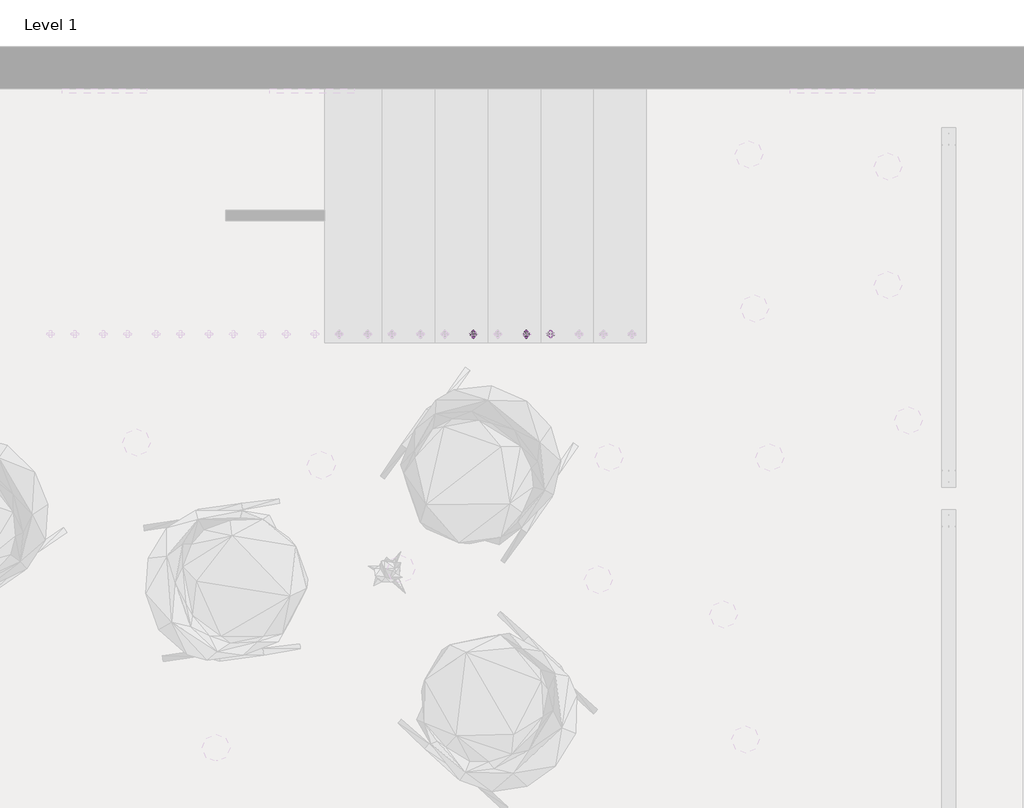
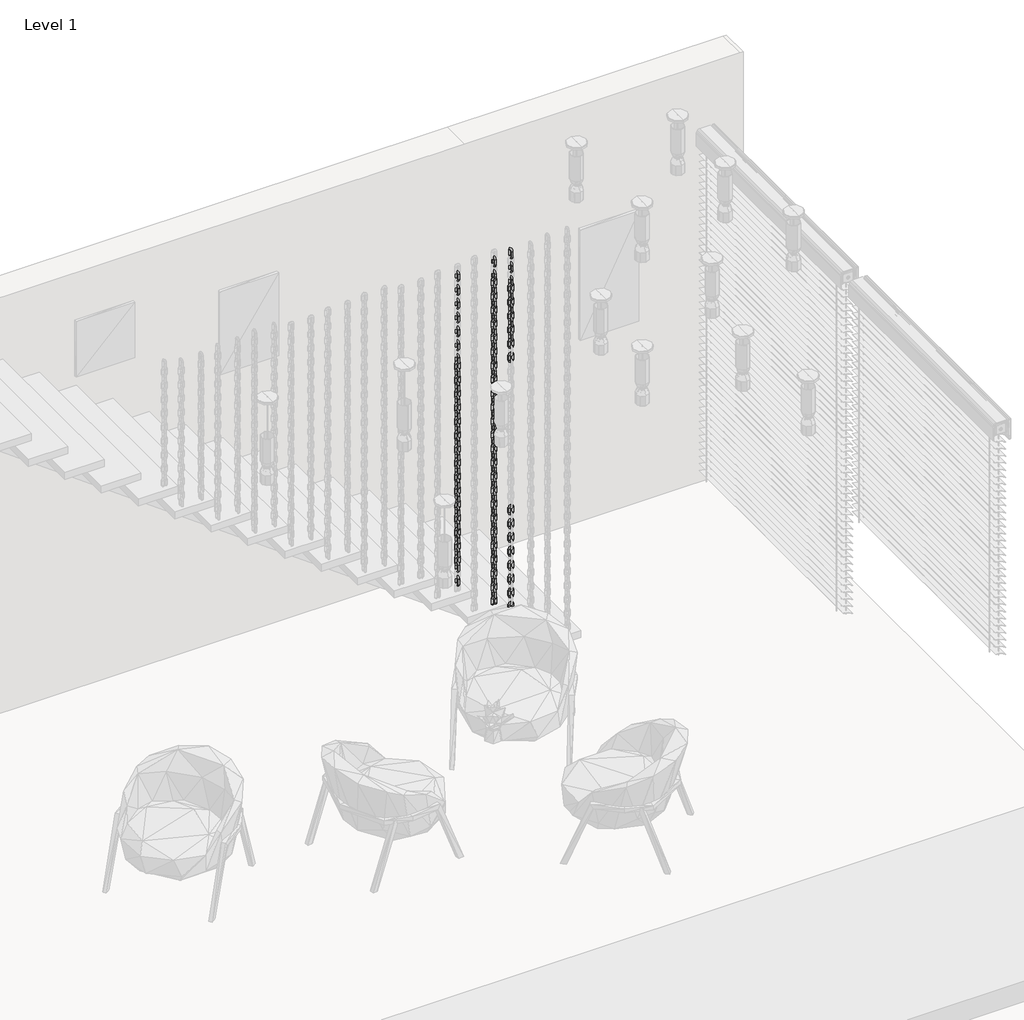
# One storey, part 10 of 12: 109 proxies.
"""IFC4 building model written with IfcOpenShell, lengths in millimetres."""

from ifc_helpers import new_model, si_unit, origin, place, context, project, spatial, transform, mapped, element, save
from components import family1_family1_50133a43, family1_family1_d3af85bb

model = new_model("IFC4")

# Units and contexts
model_context = context("Model", 3, world=origin())
ifc_project = project(units=[si_unit("LENGTHUNIT", "METRE", prefix="MILLI")], contexts=[model_context])

# Site, building, storey
site = spatial("IfcSite", under=ifc_project)
building = spatial("IfcBuilding", under=site)
storey = spatial("IfcBuildingStorey", under=building, Name="Level 1", Elevation=0.0)

# Proxies
placement = place(None, origin())
family1_family1_shape = family1_family1_50133a43(model_context)
element("IfcBuildingElementProxy", 1, Name="Family1 : Family1", ObjectType="Family1 : Family1", at=placement, inside=storey, context=model_context, shape_type="MappedRepresentation", body=[
    mapped(family1_family1_shape, transform((14615.1232124, 1139.760891, 1147.5389206), x_axis=(-0.03315618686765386, 0.0, 0.9994501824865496), y_axis=(-0.9994501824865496, 0.0, -0.03315618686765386), z_axis=(0.0, -1.0, 0.0))),
])
element("IfcBuildingElementProxy", 2, Name="Family1 : Family1", ObjectType="Family1 : Family1", at=placement, inside=storey, context=model_context, shape_type="MappedRepresentation", body=[
    mapped(family1_family1_shape, transform((14615.1232124, 1139.760891, 1247.5389206), x_axis=(-0.033156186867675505, 0.0, 0.9994501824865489), y_axis=(-0.9994501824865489, 0.0, -0.033156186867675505), z_axis=(0.0, -1.0, 0.0))),
])
element("IfcBuildingElementProxy", 3, Name="Family1 : Family1", ObjectType="Family1 : Family1", at=placement, inside=storey, context=model_context, shape_type="MappedRepresentation", body=[
    mapped(family1_family1_shape, transform((14615.1232124, 1139.760891, 1347.5389206), x_axis=(-0.033156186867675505, 0.0, 0.9994501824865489), y_axis=(-0.9994501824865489, 0.0, -0.033156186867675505), z_axis=(0.0, -1.0, 0.0))),
])
element("IfcBuildingElementProxy", 4, Name="Family1 : Family1", ObjectType="Family1 : Family1", at=placement, inside=storey, context=model_context, shape_type="MappedRepresentation", body=[
    mapped(family1_family1_shape, transform((14615.1232124, 1139.760891, 1447.5389206), x_axis=(-0.033156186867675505, 0.0, 0.9994501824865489), y_axis=(-0.9994501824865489, 0.0, -0.033156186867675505), z_axis=(0.0, -1.0, 0.0))),
])
element("IfcBuildingElementProxy", 5, Name="Family1 : Family1", ObjectType="Family1 : Family1", at=placement, inside=storey, context=model_context, shape_type="MappedRepresentation", body=[
    mapped(family1_family1_shape, transform((14615.1232124, 1139.760891, 1547.5389206), x_axis=(-0.033156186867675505, 0.0, 0.9994501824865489), y_axis=(-0.9994501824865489, 0.0, -0.033156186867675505), z_axis=(0.0, -1.0, 0.0))),
])
element("IfcBuildingElementProxy", 6, Name="Family1 : Family1", ObjectType="Family1 : Family1", at=placement, inside=storey, context=model_context, shape_type="MappedRepresentation", body=[
    mapped(family1_family1_shape, transform((14615.1232124, 1139.760891, 1647.5389206), x_axis=(-0.033156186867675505, 0.0, 0.9994501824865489), y_axis=(-0.9994501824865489, 0.0, -0.033156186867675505), z_axis=(0.0, -1.0, 0.0))),
])
element("IfcBuildingElementProxy", 7, Name="Family1 : Family1", ObjectType="Family1 : Family1", at=placement, inside=storey, context=model_context, shape_type="MappedRepresentation", body=[
    mapped(family1_family1_shape, transform((14615.1232124, 1139.760891, 1747.5389206), x_axis=(-0.033156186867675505, 0.0, 0.9994501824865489), y_axis=(-0.9994501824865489, 0.0, -0.033156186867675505), z_axis=(0.0, -1.0, 0.0))),
])
element("IfcBuildingElementProxy", 8, Name="Family1 : Family1", ObjectType="Family1 : Family1", at=placement, inside=storey, context=model_context, shape_type="MappedRepresentation", body=[
    mapped(family1_family1_shape, transform((14500.1232124, 1139.760891, 29.8918618), x_axis=(-0.033156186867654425, 0.0, 0.9994501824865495), y_axis=(-0.9994501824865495, 0.0, -0.033156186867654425), z_axis=(0.0, -1.0, 0.0))),
])
element("IfcBuildingElementProxy", 9, Name="Family1 : Family1", ObjectType="Family1 : Family1", at=placement, inside=storey, context=model_context, shape_type="MappedRepresentation", body=[
    mapped(family1_family1_shape, transform((14500.1232124, 1139.760891, 129.8918618), x_axis=(-0.03315618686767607, 0.0, 0.9994501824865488), y_axis=(-0.9994501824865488, 0.0, -0.03315618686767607), z_axis=(0.0, -1.0, 0.0))),
])
element("IfcBuildingElementProxy", 10, Name="Family1 : Family1", ObjectType="Family1 : Family1", at=placement, inside=storey, context=model_context, shape_type="MappedRepresentation", body=[
    mapped(family1_family1_shape, transform((14500.1232124, 1139.760891, 229.8918618), x_axis=(-0.03315618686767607, 0.0, 0.9994501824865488), y_axis=(-0.9994501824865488, 0.0, -0.03315618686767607), z_axis=(0.0, -1.0, 0.0))),
])
element("IfcBuildingElementProxy", 11, Name="Family1 : Family1", ObjectType="Family1 : Family1", at=placement, inside=storey, context=model_context, shape_type="MappedRepresentation", body=[
    mapped(family1_family1_shape, transform((14500.1232124, 1139.760891, 329.8918618), x_axis=(-0.03315618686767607, 0.0, 0.9994501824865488), y_axis=(-0.9994501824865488, 0.0, -0.03315618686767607), z_axis=(0.0, -1.0, 0.0))),
])
element("IfcBuildingElementProxy", 12, Name="Family1 : Family1", ObjectType="Family1 : Family1", at=placement, inside=storey, context=model_context, shape_type="MappedRepresentation", body=[
    mapped(family1_family1_shape, transform((14500.1232124, 1139.760891, 429.8918618), x_axis=(-0.03315618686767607, 0.0, 0.9994501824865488), y_axis=(-0.9994501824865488, 0.0, -0.03315618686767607), z_axis=(0.0, -1.0, 0.0))),
])
element("IfcBuildingElementProxy", 13, Name="Family1 : Family1", ObjectType="Family1 : Family1", at=placement, inside=storey, context=model_context, shape_type="MappedRepresentation", body=[
    mapped(family1_family1_shape, transform((14500.1232124, 1139.760891, 529.8918618), x_axis=(-0.033156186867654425, 0.0, 0.9994501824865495), y_axis=(-0.9994501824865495, 0.0, -0.033156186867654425), z_axis=(0.0, -1.0, 0.0))),
])
element("IfcBuildingElementProxy", 14, Name="Family1 : Family1", ObjectType="Family1 : Family1", at=placement, inside=storey, context=model_context, shape_type="MappedRepresentation", body=[
    mapped(family1_family1_shape, transform((14500.1232124, 1139.760891, 629.8918618), x_axis=(-0.03315618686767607, 0.0, 0.9994501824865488), y_axis=(-0.9994501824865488, 0.0, -0.03315618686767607), z_axis=(0.0, -1.0, 0.0))),
])
element("IfcBuildingElementProxy", 15, Name="Family1 : Family1", ObjectType="Family1 : Family1", at=placement, inside=storey, context=model_context, shape_type="MappedRepresentation", body=[
    mapped(family1_family1_shape, transform((14500.1232124, 1139.760891, 729.8918618), x_axis=(-0.03315618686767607, 0.0, 0.9994501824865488), y_axis=(-0.9994501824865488, 0.0, -0.03315618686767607), z_axis=(0.0, -1.0, 0.0))),
])
element("IfcBuildingElementProxy", 16, Name="Family1 : Family1", ObjectType="Family1 : Family1", at=placement, inside=storey, context=model_context, shape_type="MappedRepresentation", body=[
    mapped(family1_family1_shape, transform((14500.1232124, 1139.760891, 829.8918618), x_axis=(-0.03315618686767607, 0.0, 0.9994501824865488), y_axis=(-0.9994501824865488, 0.0, -0.03315618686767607), z_axis=(0.0, -1.0, 0.0))),
])
element("IfcBuildingElementProxy", 17, Name="Family1 : Family1", ObjectType="Family1 : Family1", at=placement, inside=storey, context=model_context, shape_type="MappedRepresentation", body=[
    mapped(family1_family1_shape, transform((14500.1232124, 1139.760891, 929.8918618), x_axis=(-0.03315618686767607, 0.0, 0.9994501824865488), y_axis=(-0.9994501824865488, 0.0, -0.03315618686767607), z_axis=(0.0, -1.0, 0.0))),
])
element("IfcBuildingElementProxy", 18, Name="Family1 : Family1", ObjectType="Family1 : Family1", at=placement, inside=storey, context=model_context, shape_type="MappedRepresentation", body=[
    mapped(family1_family1_shape, transform((14500.1232124, 1139.760891, -70.1081382), x_axis=(-0.03315618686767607, 0.0, 0.9994501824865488), y_axis=(-0.9994501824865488, 0.0, -0.03315618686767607), z_axis=(0.0, -1.0, 0.0))),
])
element("IfcBuildingElementProxy", 19, Name="Family1 : Family1", ObjectType="Family1 : Family1", at=placement, inside=storey, context=model_context, shape_type="MappedRepresentation", body=[
    mapped(family1_family1_shape, transform((14500.1232124, 1139.760891, -170.1081382), x_axis=(-0.03315618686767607, 0.0, 0.9994501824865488), y_axis=(-0.9994501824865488, 0.0, -0.03315618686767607), z_axis=(0.0, -1.0, 0.0))),
])
element("IfcBuildingElementProxy", 20, Name="Family1 : Family1", ObjectType="Family1 : Family1", at=placement, inside=storey, context=model_context, shape_type="MappedRepresentation", body=[
    mapped(family1_family1_shape, transform((14500.1232124, 1139.760891, -270.1081382), x_axis=(-0.03315618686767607, 0.0, 0.9994501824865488), y_axis=(-0.9994501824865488, 0.0, -0.03315618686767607), z_axis=(0.0, -1.0, 0.0))),
])
element("IfcBuildingElementProxy", 21, Name="Family1 : Family1", ObjectType="Family1 : Family1", at=placement, inside=storey, context=model_context, shape_type="MappedRepresentation", body=[
    mapped(family1_family1_shape, transform((14500.1232124, 1139.760891, -370.1081382), x_axis=(-0.03315618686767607, 0.0, 0.9994501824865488), y_axis=(-0.9994501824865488, 0.0, -0.03315618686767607), z_axis=(0.0, -1.0, 0.0))),
])
element("IfcBuildingElementProxy", 22, Name="Family1 : Family1", ObjectType="Family1 : Family1", at=placement, inside=storey, context=model_context, shape_type="MappedRepresentation", body=[
    mapped(family1_family1_shape, transform((14500.1232124, 1139.760891, -470.1081382), x_axis=(-0.033156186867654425, 0.0, 0.9994501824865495), y_axis=(-0.9994501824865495, 0.0, -0.033156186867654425), z_axis=(0.0, -1.0, 0.0))),
])
element("IfcBuildingElementProxy", 23, Name="Family1 : Family1", ObjectType="Family1 : Family1", at=placement, inside=storey, context=model_context, shape_type="MappedRepresentation", body=[
    mapped(family1_family1_shape, transform((14500.1232124, 1139.760891, -570.1081382), x_axis=(-0.03315618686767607, 0.0, 0.9994501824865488), y_axis=(-0.9994501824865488, 0.0, -0.03315618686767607), z_axis=(0.0, -1.0, 0.0))),
])
element("IfcBuildingElementProxy", 24, Name="Family1 : Family1", ObjectType="Family1 : Family1", at=placement, inside=storey, context=model_context, shape_type="MappedRepresentation", body=[
    mapped(family1_family1_shape, transform((14500.1232124, 1139.760891, -670.1081382), x_axis=(-0.03315618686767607, 0.0, 0.9994501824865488), y_axis=(-0.9994501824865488, 0.0, -0.03315618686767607), z_axis=(0.0, -1.0, 0.0))),
])
element("IfcBuildingElementProxy", 25, Name="Family1 : Family1", ObjectType="Family1 : Family1", at=placement, inside=storey, context=model_context, shape_type="MappedRepresentation", body=[
    mapped(family1_family1_shape, transform((14500.1232124, 1139.760891, 1029.8918618), x_axis=(-0.033156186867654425, 0.0, 0.9994501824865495), y_axis=(-0.9994501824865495, 0.0, -0.033156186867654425), z_axis=(0.0, -1.0, 0.0))),
])
element("IfcBuildingElementProxy", 26, Name="Family1 : Family1", ObjectType="Family1 : Family1", at=placement, inside=storey, context=model_context, shape_type="MappedRepresentation", body=[
    mapped(family1_family1_shape, transform((14500.1232124, 1139.760891, 1129.8918618), x_axis=(-0.03315618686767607, 0.0, 0.9994501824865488), y_axis=(-0.9994501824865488, 0.0, -0.03315618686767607), z_axis=(0.0, -1.0, 0.0))),
])
element("IfcBuildingElementProxy", 27, Name="Family1 : Family1", ObjectType="Family1 : Family1", at=placement, inside=storey, context=model_context, shape_type="MappedRepresentation", body=[
    mapped(family1_family1_shape, transform((14500.1232124, 1139.760891, 1229.8918618), x_axis=(-0.03315618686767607, 0.0, 0.9994501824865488), y_axis=(-0.9994501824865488, 0.0, -0.03315618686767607), z_axis=(0.0, -1.0, 0.0))),
])
element("IfcBuildingElementProxy", 28, Name="Family1 : Family1", ObjectType="Family1 : Family1", at=placement, inside=storey, context=model_context, shape_type="MappedRepresentation", body=[
    mapped(family1_family1_shape, transform((14500.1232124, 1139.760891, 1329.8918618), x_axis=(-0.03315618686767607, 0.0, 0.9994501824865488), y_axis=(-0.9994501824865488, 0.0, -0.03315618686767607), z_axis=(0.0, -1.0, 0.0))),
])
element("IfcBuildingElementProxy", 29, Name="Family1 : Family1", ObjectType="Family1 : Family1", at=placement, inside=storey, context=model_context, shape_type="MappedRepresentation", body=[
    mapped(family1_family1_shape, transform((14500.1232124, 1139.760891, 1429.8918618), x_axis=(-0.03315618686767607, 0.0, 0.9994501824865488), y_axis=(-0.9994501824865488, 0.0, -0.03315618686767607), z_axis=(0.0, -1.0, 0.0))),
])
element("IfcBuildingElementProxy", 30, Name="Family1 : Family1", ObjectType="Family1 : Family1", at=placement, inside=storey, context=model_context, shape_type="MappedRepresentation", body=[
    mapped(family1_family1_shape, transform((14500.1232124, 1139.760891, 1529.8918618), x_axis=(-0.033156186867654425, 0.0, 0.9994501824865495), y_axis=(-0.9994501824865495, 0.0, -0.033156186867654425), z_axis=(0.0, -1.0, 0.0))),
])
element("IfcBuildingElementProxy", 31, Name="Family1 : Family1", ObjectType="Family1 : Family1", at=placement, inside=storey, context=model_context, shape_type="MappedRepresentation", body=[
    mapped(family1_family1_shape, transform((14500.1232124, 1139.760891, 1629.8918618), x_axis=(-0.03315618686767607, 0.0, 0.9994501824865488), y_axis=(-0.9994501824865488, 0.0, -0.03315618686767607), z_axis=(0.0, -1.0, 0.0))),
])
element("IfcBuildingElementProxy", 32, Name="Family1 : Family1", ObjectType="Family1 : Family1", at=placement, inside=storey, context=model_context, shape_type="MappedRepresentation", body=[
    mapped(family1_family1_shape, transform((14500.1232124, 1139.760891, 1729.8918618), x_axis=(-0.03315618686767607, 0.0, 0.9994501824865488), y_axis=(-0.9994501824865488, 0.0, -0.03315618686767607), z_axis=(0.0, -1.0, 0.0))),
])
element("IfcBuildingElementProxy", 33, Name="Family1 : Family1", ObjectType="Family1 : Family1", at=placement, inside=storey, context=model_context, shape_type="MappedRepresentation", body=[
    mapped(family1_family1_shape, transform((14250.1232124, 1139.760891, 112.244803), x_axis=(-0.03315618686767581, 0.0, 0.9994501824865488), y_axis=(-0.9994501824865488, 0.0, -0.03315618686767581), z_axis=(0.0, -1.0, 0.0))),
])
element("IfcBuildingElementProxy", 34, Name="Family1 : Family1", ObjectType="Family1 : Family1", at=placement, inside=storey, context=model_context, shape_type="MappedRepresentation", body=[
    mapped(family1_family1_shape, transform((14250.1232124, 1139.760891, 212.244803), x_axis=(-0.03315618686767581, 0.0, 0.9994501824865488), y_axis=(-0.9994501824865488, 0.0, -0.03315618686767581), z_axis=(0.0, -1.0, 0.0))),
])
element("IfcBuildingElementProxy", 35, Name="Family1 : Family1", ObjectType="Family1 : Family1", at=placement, inside=storey, context=model_context, shape_type="MappedRepresentation", body=[
    mapped(family1_family1_shape, transform((14250.1232124, 1139.760891, 312.244803), x_axis=(-0.03315618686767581, 0.0, 0.9994501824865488), y_axis=(-0.9994501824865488, 0.0, -0.03315618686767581), z_axis=(0.0, -1.0, 0.0))),
])
element("IfcBuildingElementProxy", 36, Name="Family1 : Family1", ObjectType="Family1 : Family1", at=placement, inside=storey, context=model_context, shape_type="MappedRepresentation", body=[
    mapped(family1_family1_shape, transform((14250.1232124, 1139.760891, 412.244803), x_axis=(-0.03315618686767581, 0.0, 0.9994501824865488), y_axis=(-0.9994501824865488, 0.0, -0.03315618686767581), z_axis=(0.0, -1.0, 0.0))),
])
element("IfcBuildingElementProxy", 37, Name="Family1 : Family1", ObjectType="Family1 : Family1", at=placement, inside=storey, context=model_context, shape_type="MappedRepresentation", body=[
    mapped(family1_family1_shape, transform((14250.1232124, 1139.760891, 512.244803), x_axis=(-0.03315618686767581, 0.0, 0.9994501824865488), y_axis=(-0.9994501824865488, 0.0, -0.03315618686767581), z_axis=(0.0, -1.0, 0.0))),
])
element("IfcBuildingElementProxy", 38, Name="Family1 : Family1", ObjectType="Family1 : Family1", at=placement, inside=storey, context=model_context, shape_type="MappedRepresentation", body=[
    mapped(family1_family1_shape, transform((14250.1232124, 1139.760891, 612.244803), x_axis=(-0.03315618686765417, 0.0, 0.9994501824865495), y_axis=(-0.9994501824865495, 0.0, -0.03315618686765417), z_axis=(0.0, -1.0, 0.0))),
])
element("IfcBuildingElementProxy", 39, Name="Family1 : Family1", ObjectType="Family1 : Family1", at=placement, inside=storey, context=model_context, shape_type="MappedRepresentation", body=[
    mapped(family1_family1_shape, transform((14250.1232124, 1139.760891, 712.244803), x_axis=(-0.03315618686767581, 0.0, 0.9994501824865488), y_axis=(-0.9994501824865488, 0.0, -0.03315618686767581), z_axis=(0.0, -1.0, 0.0))),
])
element("IfcBuildingElementProxy", 40, Name="Family1 : Family1", ObjectType="Family1 : Family1", at=placement, inside=storey, context=model_context, shape_type="MappedRepresentation", body=[
    mapped(family1_family1_shape, transform((14250.1232124, 1139.760891, 812.244803), x_axis=(-0.03315618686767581, 0.0, 0.9994501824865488), y_axis=(-0.9994501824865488, 0.0, -0.03315618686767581), z_axis=(0.0, -1.0, 0.0))),
])
element("IfcBuildingElementProxy", 41, Name="Family1 : Family1", ObjectType="Family1 : Family1", at=placement, inside=storey, context=model_context, shape_type="MappedRepresentation", body=[
    mapped(family1_family1_shape, transform((14250.1232124, 1139.760891, 912.244803), x_axis=(-0.03315618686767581, 0.0, 0.9994501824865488), y_axis=(-0.9994501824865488, 0.0, -0.03315618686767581), z_axis=(0.0, -1.0, 0.0))),
])
element("IfcBuildingElementProxy", 42, Name="Family1 : Family1", ObjectType="Family1 : Family1", at=placement, inside=storey, context=model_context, shape_type="MappedRepresentation", body=[
    mapped(family1_family1_shape, transform((14250.1232124, 1139.760891, 1012.244803), x_axis=(-0.03315618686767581, 0.0, 0.9994501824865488), y_axis=(-0.9994501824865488, 0.0, -0.03315618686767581), z_axis=(0.0, -1.0, 0.0))),
])
element("IfcBuildingElementProxy", 43, Name="Family1 : Family1", ObjectType="Family1 : Family1", at=placement, inside=storey, context=model_context, shape_type="MappedRepresentation", body=[
    mapped(family1_family1_shape, transform((14250.1232124, 1139.760891, 12.244803), x_axis=(-0.03315618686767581, 0.0, 0.9994501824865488), y_axis=(-0.9994501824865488, 0.0, -0.03315618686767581), z_axis=(0.0, -1.0, 0.0))),
])
element("IfcBuildingElementProxy", 44, Name="Family1 : Family1", ObjectType="Family1 : Family1", at=placement, inside=storey, context=model_context, shape_type="MappedRepresentation", body=[
    mapped(family1_family1_shape, transform((14250.1232124, 1139.760891, -87.755197), x_axis=(-0.03315618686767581, 0.0, 0.9994501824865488), y_axis=(-0.9994501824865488, 0.0, -0.03315618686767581), z_axis=(0.0, -1.0, 0.0))),
])
element("IfcBuildingElementProxy", 45, Name="Family1 : Family1", ObjectType="Family1 : Family1", at=placement, inside=storey, context=model_context, shape_type="MappedRepresentation", body=[
    mapped(family1_family1_shape, transform((14250.1232124, 1139.760891, -187.755197), x_axis=(-0.03315618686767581, 0.0, 0.9994501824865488), y_axis=(-0.9994501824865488, 0.0, -0.03315618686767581), z_axis=(0.0, -1.0, 0.0))),
])
element("IfcBuildingElementProxy", 46, Name="Family1 : Family1", ObjectType="Family1 : Family1", at=placement, inside=storey, context=model_context, shape_type="MappedRepresentation", body=[
    mapped(family1_family1_shape, transform((14250.1232124, 1139.760891, -287.755197), x_axis=(-0.03315618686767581, 0.0, 0.9994501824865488), y_axis=(-0.9994501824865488, 0.0, -0.03315618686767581), z_axis=(0.0, -1.0, 0.0))),
])
element("IfcBuildingElementProxy", 47, Name="Family1 : Family1", ObjectType="Family1 : Family1", at=placement, inside=storey, context=model_context, shape_type="MappedRepresentation", body=[
    mapped(family1_family1_shape, transform((14250.1232124, 1139.760891, -387.755197), x_axis=(-0.03315618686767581, 0.0, 0.9994501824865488), y_axis=(-0.9994501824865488, 0.0, -0.03315618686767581), z_axis=(0.0, -1.0, 0.0))),
])
element("IfcBuildingElementProxy", 48, Name="Family1 : Family1", ObjectType="Family1 : Family1", at=placement, inside=storey, context=model_context, shape_type="MappedRepresentation", body=[
    mapped(family1_family1_shape, transform((14250.1232124, 1139.760891, -487.755197), x_axis=(-0.03315618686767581, 0.0, 0.9994501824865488), y_axis=(-0.9994501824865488, 0.0, -0.03315618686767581), z_axis=(0.0, -1.0, 0.0))),
])
element("IfcBuildingElementProxy", 49, Name="Family1 : Family1", ObjectType="Family1 : Family1", at=placement, inside=storey, context=model_context, shape_type="MappedRepresentation", body=[
    mapped(family1_family1_shape, transform((14250.1232124, 1139.760891, 1112.244803), x_axis=(-0.03315618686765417, 0.0, 0.9994501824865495), y_axis=(-0.9994501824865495, 0.0, -0.03315618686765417), z_axis=(0.0, -1.0, 0.0))),
])
element("IfcBuildingElementProxy", 50, Name="Family1 : Family1", ObjectType="Family1 : Family1", at=placement, inside=storey, context=model_context, shape_type="MappedRepresentation", body=[
    mapped(family1_family1_shape, transform((14250.1232124, 1139.760891, 1212.244803), x_axis=(-0.03315618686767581, 0.0, 0.9994501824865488), y_axis=(-0.9994501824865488, 0.0, -0.03315618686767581), z_axis=(0.0, -1.0, 0.0))),
])
element("IfcBuildingElementProxy", 51, Name="Family1 : Family1", ObjectType="Family1 : Family1", at=placement, inside=storey, context=model_context, shape_type="MappedRepresentation", body=[
    mapped(family1_family1_shape, transform((14250.1232124, 1139.760891, 1312.244803), x_axis=(-0.03315618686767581, 0.0, 0.9994501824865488), y_axis=(-0.9994501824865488, 0.0, -0.03315618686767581), z_axis=(0.0, -1.0, 0.0))),
])
element("IfcBuildingElementProxy", 52, Name="Family1 : Family1", ObjectType="Family1 : Family1", at=placement, inside=storey, context=model_context, shape_type="MappedRepresentation", body=[
    mapped(family1_family1_shape, transform((14250.1232124, 1139.760891, 1412.244803), x_axis=(-0.03315618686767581, 0.0, 0.9994501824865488), y_axis=(-0.9994501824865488, 0.0, -0.03315618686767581), z_axis=(0.0, -1.0, 0.0))),
])
element("IfcBuildingElementProxy", 53, Name="Family1 : Family1", ObjectType="Family1 : Family1", at=placement, inside=storey, context=model_context, shape_type="MappedRepresentation", body=[
    mapped(family1_family1_shape, transform((14250.1232124, 1139.760891, 1512.244803), x_axis=(-0.03315618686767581, 0.0, 0.9994501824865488), y_axis=(-0.9994501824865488, 0.0, -0.03315618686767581), z_axis=(0.0, -1.0, 0.0))),
])
element("IfcBuildingElementProxy", 54, Name="Family1 : Family1", ObjectType="Family1 : Family1", at=placement, inside=storey, context=model_context, shape_type="MappedRepresentation", body=[
    mapped(family1_family1_shape, transform((14250.1232124, 1139.760891, 1612.244803), x_axis=(-0.03315618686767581, 0.0, 0.9994501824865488), y_axis=(-0.9994501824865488, 0.0, -0.03315618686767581), z_axis=(0.0, -1.0, 0.0))),
])
element("IfcBuildingElementProxy", 55, Name="Family1 : Family1", ObjectType="Family1 : Family1", at=placement, inside=storey, context=model_context, shape_type="MappedRepresentation", body=[
    mapped(family1_family1_shape, transform((14250.1232124, 1139.760891, 1712.244803), x_axis=(-0.03315618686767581, 0.0, 0.9994501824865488), y_axis=(-0.9994501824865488, 0.0, -0.03315618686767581), z_axis=(0.0, -1.0, 0.0))),
])
family1_family1_2_shape = family1_family1_d3af85bb(model_context)
element("IfcBuildingElementProxy", 56, Name="Family1 : Family1", ObjectType="Family1 : Family1", at=placement, inside=storey, context=model_context, shape_type="MappedRepresentation", body=[
    mapped(family1_family1_2_shape, transform((14615.1232124, 1139.760891, -102.4610794), x_axis=(-0.033156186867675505, 0.0, 0.9994501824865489), y_axis=(-0.9994501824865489, 0.0, -0.033156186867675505), z_axis=(0.0, -1.0, 0.0))),
])
element("IfcBuildingElementProxy", 57, Name="Family1 : Family1", ObjectType="Family1 : Family1", at=placement, inside=storey, context=model_context, shape_type="MappedRepresentation", body=[
    mapped(family1_family1_2_shape, transform((14615.1232124, 1139.760891, -202.4610794), x_axis=(-0.033156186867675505, 0.0, 0.9994501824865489), y_axis=(-0.9994501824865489, 0.0, -0.033156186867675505), z_axis=(0.0, -1.0, 0.0))),
])
element("IfcBuildingElementProxy", 58, Name="Family1 : Family1", ObjectType="Family1 : Family1", at=placement, inside=storey, context=model_context, shape_type="MappedRepresentation", body=[
    mapped(family1_family1_2_shape, transform((14615.1232124, 1139.760891, -302.4610794), x_axis=(-0.033156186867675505, 0.0, 0.9994501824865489), y_axis=(-0.9994501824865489, 0.0, -0.033156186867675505), z_axis=(0.0, -1.0, 0.0))),
])
element("IfcBuildingElementProxy", 59, Name="Family1 : Family1", ObjectType="Family1 : Family1", at=placement, inside=storey, context=model_context, shape_type="MappedRepresentation", body=[
    mapped(family1_family1_2_shape, transform((14615.1232124, 1139.760891, -402.4610794), x_axis=(-0.033156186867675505, 0.0, 0.9994501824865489), y_axis=(-0.9994501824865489, 0.0, -0.033156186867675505), z_axis=(0.0, -1.0, 0.0))),
])
element("IfcBuildingElementProxy", 60, Name="Family1 : Family1", ObjectType="Family1 : Family1", at=placement, inside=storey, context=model_context, shape_type="MappedRepresentation", body=[
    mapped(family1_family1_2_shape, transform((14615.1232124, 1139.760891, -502.4610794), x_axis=(-0.033156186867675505, 0.0, 0.9994501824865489), y_axis=(-0.9994501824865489, 0.0, -0.033156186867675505), z_axis=(0.0, -1.0, 0.0))),
])
element("IfcBuildingElementProxy", 61, Name="Family1 : Family1", ObjectType="Family1 : Family1", at=placement, inside=storey, context=model_context, shape_type="MappedRepresentation", body=[
    mapped(family1_family1_2_shape, transform((14615.1232124, 1139.760891, -602.4610794), x_axis=(-0.033156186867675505, 0.0, 0.9994501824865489), y_axis=(-0.9994501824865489, 0.0, -0.033156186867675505), z_axis=(0.0, -1.0, 0.0))),
])
element("IfcBuildingElementProxy", 62, Name="Family1 : Family1", ObjectType="Family1 : Family1", at=placement, inside=storey, context=model_context, shape_type="MappedRepresentation", body=[
    mapped(family1_family1_2_shape, transform((14615.1232124, 1139.760891, -702.4610794), x_axis=(-0.03315618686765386, 0.0, 0.9994501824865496), y_axis=(-0.9994501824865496, 0.0, -0.03315618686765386), z_axis=(0.0, -1.0, 0.0))),
])
element("IfcBuildingElementProxy", 63, Name="Family1 : Family1", ObjectType="Family1 : Family1", at=placement, inside=storey, context=model_context, shape_type="MappedRepresentation", body=[
    mapped(family1_family1_2_shape, transform((14615.1232124, 1139.760891, -802.4610794), x_axis=(-0.033156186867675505, 0.0, 0.9994501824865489), y_axis=(-0.9994501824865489, 0.0, -0.033156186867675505), z_axis=(0.0, -1.0, 0.0))),
])
element("IfcBuildingElementProxy", 64, Name="Family1 : Family1", ObjectType="Family1 : Family1", at=placement, inside=storey, context=model_context, shape_type="MappedRepresentation", body=[
    mapped(family1_family1_2_shape, transform((14615.1232124, 1139.760891, -902.4610794), x_axis=(-0.033156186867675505, 0.0, 0.9994501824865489), y_axis=(-0.9994501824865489, 0.0, -0.033156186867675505), z_axis=(0.0, -1.0, 0.0))),
])
element("IfcBuildingElementProxy", 65, Name="Family1 : Family1", ObjectType="Family1 : Family1", at=placement, inside=storey, context=model_context, shape_type="MappedRepresentation", body=[
    mapped(family1_family1_2_shape, transform((14615.1232124, 1139.760891, 997.5389206), x_axis=(-0.033156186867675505, 0.0, 0.9994501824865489), y_axis=(-0.9994501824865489, 0.0, -0.033156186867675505), z_axis=(0.0, -1.0, 0.0))),
])
element("IfcBuildingElementProxy", 66, Name="Family1 : Family1", ObjectType="Family1 : Family1", at=placement, inside=storey, context=model_context, shape_type="MappedRepresentation", body=[
    mapped(family1_family1_2_shape, transform((14615.1232124, 1139.760891, 1097.5389206), x_axis=(-0.033156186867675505, 0.0, 0.9994501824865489), y_axis=(-0.9994501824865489, 0.0, -0.033156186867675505), z_axis=(0.0, -1.0, 0.0))),
])
element("IfcBuildingElementProxy", 67, Name="Family1 : Family1", ObjectType="Family1 : Family1", at=placement, inside=storey, context=model_context, shape_type="MappedRepresentation", body=[
    mapped(family1_family1_2_shape, transform((14615.1232124, 1139.760891, 1197.5389206), x_axis=(-0.033156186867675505, 0.0, 0.9994501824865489), y_axis=(-0.9994501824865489, 0.0, -0.033156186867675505), z_axis=(0.0, -1.0, 0.0))),
])
element("IfcBuildingElementProxy", 68, Name="Family1 : Family1", ObjectType="Family1 : Family1", at=placement, inside=storey, context=model_context, shape_type="MappedRepresentation", body=[
    mapped(family1_family1_2_shape, transform((14615.1232124, 1139.760891, 1297.5389206), x_axis=(-0.033156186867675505, 0.0, 0.9994501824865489), y_axis=(-0.9994501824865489, 0.0, -0.033156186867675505), z_axis=(0.0, -1.0, 0.0))),
])
element("IfcBuildingElementProxy", 69, Name="Family1 : Family1", ObjectType="Family1 : Family1", at=placement, inside=storey, context=model_context, shape_type="MappedRepresentation", body=[
    mapped(family1_family1_2_shape, transform((14615.1232124, 1139.760891, 1397.5389206), x_axis=(-0.033156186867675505, 0.0, 0.9994501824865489), y_axis=(-0.9994501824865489, 0.0, -0.033156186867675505), z_axis=(0.0, -1.0, 0.0))),
])
element("IfcBuildingElementProxy", 70, Name="Family1 : Family1", ObjectType="Family1 : Family1", at=placement, inside=storey, context=model_context, shape_type="MappedRepresentation", body=[
    mapped(family1_family1_2_shape, transform((14615.1232124, 1139.760891, 1497.5389206), x_axis=(-0.033156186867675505, 0.0, 0.9994501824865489), y_axis=(-0.9994501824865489, 0.0, -0.033156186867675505), z_axis=(0.0, -1.0, 0.0))),
])
element("IfcBuildingElementProxy", 71, Name="Family1 : Family1", ObjectType="Family1 : Family1", at=placement, inside=storey, context=model_context, shape_type="MappedRepresentation", body=[
    mapped(family1_family1_2_shape, transform((14500.1232124, 1139.760891, 79.8918618), x_axis=(-0.03315618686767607, 0.0, 0.9994501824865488), y_axis=(-0.9994501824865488, 0.0, -0.03315618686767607), z_axis=(0.0, -1.0, 0.0))),
])
element("IfcBuildingElementProxy", 72, Name="Family1 : Family1", ObjectType="Family1 : Family1", at=placement, inside=storey, context=model_context, shape_type="MappedRepresentation", body=[
    mapped(family1_family1_2_shape, transform((14500.1232124, 1139.760891, 179.8918618), x_axis=(-0.03315618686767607, 0.0, 0.9994501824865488), y_axis=(-0.9994501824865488, 0.0, -0.03315618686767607), z_axis=(0.0, -1.0, 0.0))),
])
element("IfcBuildingElementProxy", 73, Name="Family1 : Family1", ObjectType="Family1 : Family1", at=placement, inside=storey, context=model_context, shape_type="MappedRepresentation", body=[
    mapped(family1_family1_2_shape, transform((14500.1232124, 1139.760891, 279.8918618), x_axis=(-0.03315618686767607, 0.0, 0.9994501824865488), y_axis=(-0.9994501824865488, 0.0, -0.03315618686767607), z_axis=(0.0, -1.0, 0.0))),
])
element("IfcBuildingElementProxy", 74, Name="Family1 : Family1", ObjectType="Family1 : Family1", at=placement, inside=storey, context=model_context, shape_type="MappedRepresentation", body=[
    mapped(family1_family1_2_shape, transform((14500.1232124, 1139.760891, 379.8918618), x_axis=(-0.03315618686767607, 0.0, 0.9994501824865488), y_axis=(-0.9994501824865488, 0.0, -0.03315618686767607), z_axis=(0.0, -1.0, 0.0))),
])
element("IfcBuildingElementProxy", 75, Name="Family1 : Family1", ObjectType="Family1 : Family1", at=placement, inside=storey, context=model_context, shape_type="MappedRepresentation", body=[
    mapped(family1_family1_2_shape, transform((14500.1232124, 1139.760891, 479.8918618), x_axis=(-0.03315618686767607, 0.0, 0.9994501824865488), y_axis=(-0.9994501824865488, 0.0, -0.03315618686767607), z_axis=(0.0, -1.0, 0.0))),
])
element("IfcBuildingElementProxy", 76, Name="Family1 : Family1", ObjectType="Family1 : Family1", at=placement, inside=storey, context=model_context, shape_type="MappedRepresentation", body=[
    mapped(family1_family1_2_shape, transform((14500.1232124, 1139.760891, 579.8918618), x_axis=(-0.03315618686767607, 0.0, 0.9994501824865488), y_axis=(-0.9994501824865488, 0.0, -0.03315618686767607), z_axis=(0.0, -1.0, 0.0))),
])
element("IfcBuildingElementProxy", 77, Name="Family1 : Family1", ObjectType="Family1 : Family1", at=placement, inside=storey, context=model_context, shape_type="MappedRepresentation", body=[
    mapped(family1_family1_2_shape, transform((14500.1232124, 1139.760891, 679.8918618), x_axis=(-0.03315618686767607, 0.0, 0.9994501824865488), y_axis=(-0.9994501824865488, 0.0, -0.03315618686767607), z_axis=(0.0, -1.0, 0.0))),
])
element("IfcBuildingElementProxy", 78, Name="Family1 : Family1", ObjectType="Family1 : Family1", at=placement, inside=storey, context=model_context, shape_type="MappedRepresentation", body=[
    mapped(family1_family1_2_shape, transform((14500.1232124, 1139.760891, 779.8918618), x_axis=(-0.03315618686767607, 0.0, 0.9994501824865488), y_axis=(-0.9994501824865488, 0.0, -0.03315618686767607), z_axis=(0.0, -1.0, 0.0))),
])
element("IfcBuildingElementProxy", 79, Name="Family1 : Family1", ObjectType="Family1 : Family1", at=placement, inside=storey, context=model_context, shape_type="MappedRepresentation", body=[
    mapped(family1_family1_2_shape, transform((14500.1232124, 1139.760891, 879.8918618), x_axis=(-0.03315618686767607, 0.0, 0.9994501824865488), y_axis=(-0.9994501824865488, 0.0, -0.03315618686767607), z_axis=(0.0, -1.0, 0.0))),
])
element("IfcBuildingElementProxy", 80, Name="Family1 : Family1", ObjectType="Family1 : Family1", at=placement, inside=storey, context=model_context, shape_type="MappedRepresentation", body=[
    mapped(family1_family1_2_shape, transform((14500.1232124, 1139.760891, 979.8918618), x_axis=(-0.03315618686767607, 0.0, 0.9994501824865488), y_axis=(-0.9994501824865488, 0.0, -0.03315618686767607), z_axis=(0.0, -1.0, 0.0))),
])
element("IfcBuildingElementProxy", 81, Name="Family1 : Family1", ObjectType="Family1 : Family1", at=placement, inside=storey, context=model_context, shape_type="MappedRepresentation", body=[
    mapped(family1_family1_2_shape, transform((14500.1232124, 1139.760891, -20.1081382), x_axis=(-0.03315618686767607, 0.0, 0.9994501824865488), y_axis=(-0.9994501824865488, 0.0, -0.03315618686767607), z_axis=(0.0, -1.0, 0.0))),
])
element("IfcBuildingElementProxy", 82, Name="Family1 : Family1", ObjectType="Family1 : Family1", at=placement, inside=storey, context=model_context, shape_type="MappedRepresentation", body=[
    mapped(family1_family1_2_shape, transform((14500.1232124, 1139.760891, -120.1081382), x_axis=(-0.03315618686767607, 0.0, 0.9994501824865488), y_axis=(-0.9994501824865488, 0.0, -0.03315618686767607), z_axis=(0.0, -1.0, 0.0))),
])
element("IfcBuildingElementProxy", 83, Name="Family1 : Family1", ObjectType="Family1 : Family1", at=placement, inside=storey, context=model_context, shape_type="MappedRepresentation", body=[
    mapped(family1_family1_2_shape, transform((14500.1232124, 1139.760891, -220.1081382), x_axis=(-0.03315618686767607, 0.0, 0.9994501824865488), y_axis=(-0.9994501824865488, 0.0, -0.03315618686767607), z_axis=(0.0, -1.0, 0.0))),
])
element("IfcBuildingElementProxy", 84, Name="Family1 : Family1", ObjectType="Family1 : Family1", at=placement, inside=storey, context=model_context, shape_type="MappedRepresentation", body=[
    mapped(family1_family1_2_shape, transform((14500.1232124, 1139.760891, -320.1081382), x_axis=(-0.03315618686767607, 0.0, 0.9994501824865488), y_axis=(-0.9994501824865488, 0.0, -0.03315618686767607), z_axis=(0.0, -1.0, 0.0))),
])
element("IfcBuildingElementProxy", 85, Name="Family1 : Family1", ObjectType="Family1 : Family1", at=placement, inside=storey, context=model_context, shape_type="MappedRepresentation", body=[
    mapped(family1_family1_2_shape, transform((14500.1232124, 1139.760891, -420.1081382), x_axis=(-0.03315618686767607, 0.0, 0.9994501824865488), y_axis=(-0.9994501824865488, 0.0, -0.03315618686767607), z_axis=(0.0, -1.0, 0.0))),
])
element("IfcBuildingElementProxy", 86, Name="Family1 : Family1", ObjectType="Family1 : Family1", at=placement, inside=storey, context=model_context, shape_type="MappedRepresentation", body=[
    mapped(family1_family1_2_shape, transform((14500.1232124, 1139.760891, -520.1081382), x_axis=(-0.03315618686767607, 0.0, 0.9994501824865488), y_axis=(-0.9994501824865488, 0.0, -0.03315618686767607), z_axis=(0.0, -1.0, 0.0))),
])
element("IfcBuildingElementProxy", 87, Name="Family1 : Family1", ObjectType="Family1 : Family1", at=placement, inside=storey, context=model_context, shape_type="MappedRepresentation", body=[
    mapped(family1_family1_2_shape, transform((14500.1232124, 1139.760891, -620.1081382), x_axis=(-0.03315618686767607, 0.0, 0.9994501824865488), y_axis=(-0.9994501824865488, 0.0, -0.03315618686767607), z_axis=(0.0, -1.0, 0.0))),
])
element("IfcBuildingElementProxy", 88, Name="Family1 : Family1", ObjectType="Family1 : Family1", at=placement, inside=storey, context=model_context, shape_type="MappedRepresentation", body=[
    mapped(family1_family1_2_shape, transform((14500.1232124, 1139.760891, -720.1081382), x_axis=(-0.03315618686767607, 0.0, 0.9994501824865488), y_axis=(-0.9994501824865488, 0.0, -0.03315618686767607), z_axis=(0.0, -1.0, 0.0))),
])
element("IfcBuildingElementProxy", 89, Name="Family1 : Family1", ObjectType="Family1 : Family1", at=placement, inside=storey, context=model_context, shape_type="MappedRepresentation", body=[
    mapped(family1_family1_2_shape, transform((14500.1232124, 1139.760891, 1079.8918618), x_axis=(-0.03315618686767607, 0.0, 0.9994501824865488), y_axis=(-0.9994501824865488, 0.0, -0.03315618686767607), z_axis=(0.0, -1.0, 0.0))),
])
element("IfcBuildingElementProxy", 90, Name="Family1 : Family1", ObjectType="Family1 : Family1", at=placement, inside=storey, context=model_context, shape_type="MappedRepresentation", body=[
    mapped(family1_family1_2_shape, transform((14500.1232124, 1139.760891, 1179.8918618), x_axis=(-0.03315618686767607, 0.0, 0.9994501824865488), y_axis=(-0.9994501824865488, 0.0, -0.03315618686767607), z_axis=(0.0, -1.0, 0.0))),
])
element("IfcBuildingElementProxy", 91, Name="Family1 : Family1", ObjectType="Family1 : Family1", at=placement, inside=storey, context=model_context, shape_type="MappedRepresentation", body=[
    mapped(family1_family1_2_shape, transform((14500.1232124, 1139.760891, 1279.8918618), x_axis=(-0.03315618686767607, 0.0, 0.9994501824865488), y_axis=(-0.9994501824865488, 0.0, -0.03315618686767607), z_axis=(0.0, -1.0, 0.0))),
])
element("IfcBuildingElementProxy", 92, Name="Family1 : Family1", ObjectType="Family1 : Family1", at=placement, inside=storey, context=model_context, shape_type="MappedRepresentation", body=[
    mapped(family1_family1_2_shape, transform((14500.1232124, 1139.760891, 1379.8918618), x_axis=(-0.03315618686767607, 0.0, 0.9994501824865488), y_axis=(-0.9994501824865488, 0.0, -0.03315618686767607), z_axis=(0.0, -1.0, 0.0))),
])
element("IfcBuildingElementProxy", 93, Name="Family1 : Family1", ObjectType="Family1 : Family1", at=placement, inside=storey, context=model_context, shape_type="MappedRepresentation", body=[
    mapped(family1_family1_2_shape, transform((14500.1232124, 1139.760891, 1479.8918618), x_axis=(-0.03315618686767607, 0.0, 0.9994501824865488), y_axis=(-0.9994501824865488, 0.0, -0.03315618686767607), z_axis=(0.0, -1.0, 0.0))),
])
element("IfcBuildingElementProxy", 94, Name="Family1 : Family1", ObjectType="Family1 : Family1", at=placement, inside=storey, context=model_context, shape_type="MappedRepresentation", body=[
    mapped(family1_family1_2_shape, transform((14500.1232124, 1139.760891, 1579.8918618), x_axis=(-0.03315618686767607, 0.0, 0.9994501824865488), y_axis=(-0.9994501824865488, 0.0, -0.03315618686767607), z_axis=(0.0, -1.0, 0.0))),
])
element("IfcBuildingElementProxy", 95, Name="Family1 : Family1", ObjectType="Family1 : Family1", at=placement, inside=storey, context=model_context, shape_type="MappedRepresentation", body=[
    mapped(family1_family1_2_shape, transform((14250.1232124, 1139.760891, 162.244803), x_axis=(-0.03315618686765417, 0.0, 0.9994501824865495), y_axis=(-0.9994501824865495, 0.0, -0.03315618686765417), z_axis=(0.0, -1.0, 0.0))),
])
element("IfcBuildingElementProxy", 96, Name="Family1 : Family1", ObjectType="Family1 : Family1", at=placement, inside=storey, context=model_context, shape_type="MappedRepresentation", body=[
    mapped(family1_family1_2_shape, transform((14250.1232124, 1139.760891, 262.244803), x_axis=(-0.03315618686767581, 0.0, 0.9994501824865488), y_axis=(-0.9994501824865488, 0.0, -0.03315618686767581), z_axis=(0.0, -1.0, 0.0))),
])
element("IfcBuildingElementProxy", 97, Name="Family1 : Family1", ObjectType="Family1 : Family1", at=placement, inside=storey, context=model_context, shape_type="MappedRepresentation", body=[
    mapped(family1_family1_2_shape, transform((14250.1232124, 1139.760891, 362.244803), x_axis=(-0.03315618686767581, 0.0, 0.9994501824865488), y_axis=(-0.9994501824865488, 0.0, -0.03315618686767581), z_axis=(0.0, -1.0, 0.0))),
])
element("IfcBuildingElementProxy", 98, Name="Family1 : Family1", ObjectType="Family1 : Family1", at=placement, inside=storey, context=model_context, shape_type="MappedRepresentation", body=[
    mapped(family1_family1_2_shape, transform((14250.1232124, 1139.760891, 462.244803), x_axis=(-0.03315618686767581, 0.0, 0.9994501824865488), y_axis=(-0.9994501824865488, 0.0, -0.03315618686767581), z_axis=(0.0, -1.0, 0.0))),
])
element("IfcBuildingElementProxy", 99, Name="Family1 : Family1", ObjectType="Family1 : Family1", at=placement, inside=storey, context=model_context, shape_type="MappedRepresentation", body=[
    mapped(family1_family1_2_shape, transform((14250.1232124, 1139.760891, 562.244803), x_axis=(-0.03315618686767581, 0.0, 0.9994501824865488), y_axis=(-0.9994501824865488, 0.0, -0.03315618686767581), z_axis=(0.0, -1.0, 0.0))),
])
element("IfcBuildingElementProxy", 100, Name="Family1 : Family1", ObjectType="Family1 : Family1", at=placement, inside=storey, context=model_context, shape_type="MappedRepresentation", body=[
    mapped(family1_family1_2_shape, transform((14250.1232124, 1139.760891, 662.244803), x_axis=(-0.03315618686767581, 0.0, 0.9994501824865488), y_axis=(-0.9994501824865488, 0.0, -0.03315618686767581), z_axis=(0.0, -1.0, 0.0))),
])
element("IfcBuildingElementProxy", 101, Name="Family1 : Family1", ObjectType="Family1 : Family1", at=placement, inside=storey, context=model_context, shape_type="MappedRepresentation", body=[
    mapped(family1_family1_2_shape, transform((14250.1232124, 1139.760891, 762.244803), x_axis=(-0.03315618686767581, 0.0, 0.9994501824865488), y_axis=(-0.9994501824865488, 0.0, -0.03315618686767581), z_axis=(0.0, -1.0, 0.0))),
])
element("IfcBuildingElementProxy", 102, Name="Family1 : Family1", ObjectType="Family1 : Family1", at=placement, inside=storey, context=model_context, shape_type="MappedRepresentation", body=[
    mapped(family1_family1_2_shape, transform((14250.1232124, 1139.760891, 862.244803), x_axis=(-0.03315618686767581, 0.0, 0.9994501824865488), y_axis=(-0.9994501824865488, 0.0, -0.03315618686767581), z_axis=(0.0, -1.0, 0.0))),
])
element("IfcBuildingElementProxy", 103, Name="Family1 : Family1", ObjectType="Family1 : Family1", at=placement, inside=storey, context=model_context, shape_type="MappedRepresentation", body=[
    mapped(family1_family1_2_shape, transform((14250.1232124, 1139.760891, 962.244803), x_axis=(-0.03315618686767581, 0.0, 0.9994501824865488), y_axis=(-0.9994501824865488, 0.0, -0.03315618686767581), z_axis=(0.0, -1.0, 0.0))),
])
element("IfcBuildingElementProxy", 104, Name="Family1 : Family1", ObjectType="Family1 : Family1", at=placement, inside=storey, context=model_context, shape_type="MappedRepresentation", body=[
    mapped(family1_family1_2_shape, transform((14250.1232124, 1139.760891, 1062.244803), x_axis=(-0.03315618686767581, 0.0, 0.9994501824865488), y_axis=(-0.9994501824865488, 0.0, -0.03315618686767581), z_axis=(0.0, -1.0, 0.0))),
])
element("IfcBuildingElementProxy", 105, Name="Family1 : Family1", ObjectType="Family1 : Family1", at=placement, inside=storey, context=model_context, shape_type="MappedRepresentation", body=[
    mapped(family1_family1_2_shape, transform((14250.1232124, 1139.760891, 62.244803), x_axis=(-0.03315618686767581, 0.0, 0.9994501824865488), y_axis=(-0.9994501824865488, 0.0, -0.03315618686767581), z_axis=(0.0, -1.0, 0.0))),
])
element("IfcBuildingElementProxy", 106, Name="Family1 : Family1", ObjectType="Family1 : Family1", at=placement, inside=storey, context=model_context, shape_type="MappedRepresentation", body=[
    mapped(family1_family1_2_shape, transform((14250.1232124, 1139.760891, -37.755197), x_axis=(-0.03315618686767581, 0.0, 0.9994501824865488), y_axis=(-0.9994501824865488, 0.0, -0.03315618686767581), z_axis=(0.0, -1.0, 0.0))),
])
element("IfcBuildingElementProxy", 107, Name="Family1 : Family1", ObjectType="Family1 : Family1", at=placement, inside=storey, context=model_context, shape_type="MappedRepresentation", body=[
    mapped(family1_family1_2_shape, transform((14250.1232124, 1139.760891, -137.755197), x_axis=(-0.03315618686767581, 0.0, 0.9994501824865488), y_axis=(-0.9994501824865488, 0.0, -0.03315618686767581), z_axis=(0.0, -1.0, 0.0))),
])
element("IfcBuildingElementProxy", 108, Name="Family1 : Family1", ObjectType="Family1 : Family1", at=placement, inside=storey, context=model_context, shape_type="MappedRepresentation", body=[
    mapped(family1_family1_2_shape, transform((14250.1232124, 1139.760891, -237.755197), x_axis=(-0.03315618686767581, 0.0, 0.9994501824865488), y_axis=(-0.9994501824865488, 0.0, -0.03315618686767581), z_axis=(0.0, -1.0, 0.0))),
])
element("IfcBuildingElementProxy", 109, Name="Family1 : Family1", ObjectType="Family1 : Family1", at=placement, inside=storey, context=model_context, shape_type="MappedRepresentation", body=[
    mapped(family1_family1_2_shape, transform((14250.1232124, 1139.760891, -337.755197), x_axis=(-0.03315618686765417, 0.0, 0.9994501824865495), y_axis=(-0.9994501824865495, 0.0, -0.03315618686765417), z_axis=(0.0, -1.0, 0.0))),
])

save(model, "model.ifc")
